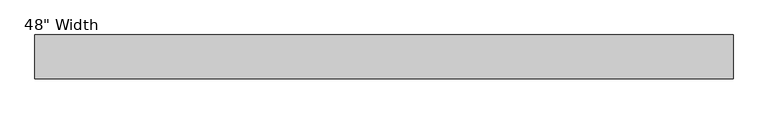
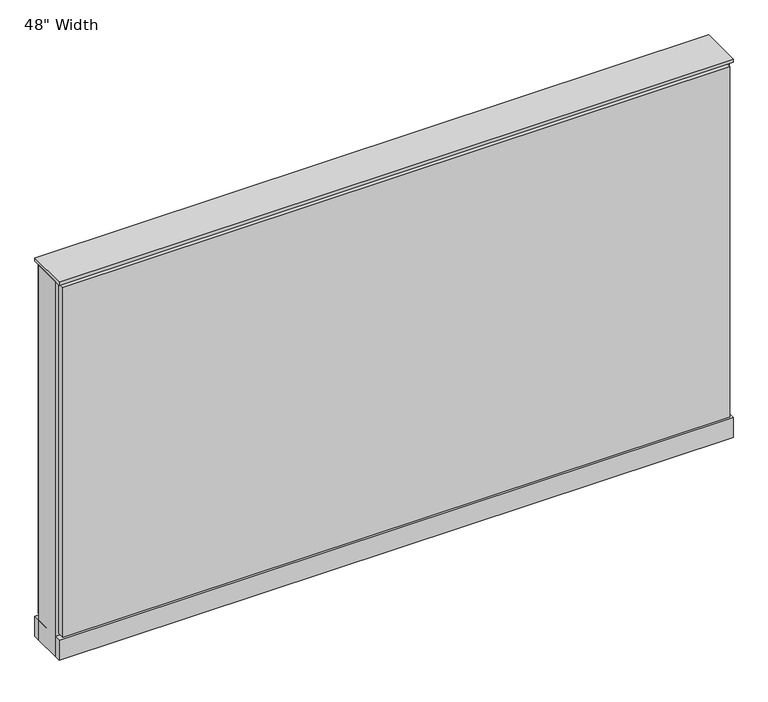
"""IFC4 building model written with IfcOpenShell, lengths in millimetres: furniture geometry."""

from ifc_helpers import new_model, si_unit, point, frame, frame_2d, origin, origin_with_axes, place, context, project, spatial, polyline, circle_curve, trimmed, segment, composite_curve, outline, extrude, source, transform, mapped, element, save


def furniture_39dd54f5(model_context):
    return source(origin(), model_context, "Body", "SweptSolid", [
        extrude(outline(composite_curve([segment(trimmed(circle_curve(frame_2d((535.8402902, 0.0)), 12.7), [point((523.1402902, 0.0))], [point((548.5402902, 0.0))], False, "CARTESIAN"), True, "CONTINUOUS"), segment(trimmed(circle_curve(frame_2d((535.8402902, 0.0)), 12.7), [point((548.5402902, 0.0))], [point((523.1402902, 0.0))], False, "CARTESIAN"), True, "CONTINUOUS")], self_intersect=False)), origin_with_axes(), (0.0, 0.0, 1.0), 12.7),
        extrude(outline(composite_curve([segment(trimmed(circle_curve(frame_2d((-530.9597098, 0.0)), 12.7), [point((-543.6597098, 0.0))], [point((-518.2597098, 0.0))], False, "CARTESIAN"), True, "CONTINUOUS"), segment(trimmed(circle_curve(frame_2d((-530.9597098, 0.0)), 12.7), [point((-518.2597098, 0.0))], [point((-543.6597098, 0.0))], False, "CARTESIAN"), True, "CONTINUOUS")], self_intersect=False)), origin_with_axes(), (0.0, 0.0, 1.0), 12.7),
        extrude(outline(polyline([(605.6902902, 38.1), (605.6902902, 25.4), (-600.8097098, 25.4), (-600.8097098, 38.1), (605.6902902, 38.1)])), frame((0.0, 0.0, 53.975), z_axis=(0.0, 0.0, 1.0), x_axis=(1.0, 0.0, 0.0)), (0.0, 0.0, 1.0), 669.925),
        extrude(outline(polyline([(605.6902902, -38.1), (-600.8097098, -38.1), (-600.8097098, -25.4), (605.6902902, -25.4), (605.6902902, -38.1)])), frame((0.0, 0.0, 53.975), z_axis=(0.0, 0.0, 1.0), x_axis=(1.0, 0.0, 0.0)), (0.0, 0.0, 1.0), 669.925),
        extrude(outline(polyline([(612.0402902, 25.4), (612.0402902, -25.4), (-607.1597098, -25.4), (-607.1597098, 25.4), (612.0402902, 25.4)])), frame((0.0, 0.0, 12.7), z_axis=(0.0, 0.0, 1.0), x_axis=(1.0, 0.0, 0.0)), (0.0, 0.0, 1.0), 717.55),
        extrude(outline(polyline([(-607.1597098, -38.1), (-607.1597098, 38.1), (612.0402902, 38.1), (612.0402902, -38.1), (-607.1597098, -38.1)])), frame((0.0, 0.0, 12.7), z_axis=(0.0, 0.0, 1.0), x_axis=(1.0, 0.0, 0.0)), (0.0, 0.0, 1.0), 38.1),
        extrude(outline(polyline([(-607.1597098, -38.1), (-607.1597098, 38.1), (612.0402902, 38.1), (612.0402902, -38.1), (-607.1597098, -38.1)])), frame((0.0, 0.0, 730.25), z_axis=(0.0, 0.0, 1.0), x_axis=(1.0, 0.0, 0.0)), (0.0, 0.0, 1.0), 6.35),
    ])


if __name__ == "__main__":
    model = new_model("IFC4")
    model_context = context("Model", 3, world=origin())
    ifc_project = project(units=[si_unit("LENGTHUNIT", "METRE", prefix="MILLI")], contexts=[model_context])
    site = spatial("IfcSite", under=ifc_project)
    building = spatial("IfcBuilding", under=site)
    placement = place(None, origin())
    furniture_shape = furniture_39dd54f5(model_context)
    element("IfcFurniture", 1, ObjectType="Haworth_Compose-Panel-Benching : 48\" Width", at=placement, inside=building, context=model_context, shape_type="MappedRepresentation", body=[
        mapped(furniture_shape, transform((0.0, 0.0, 0.0), x_axis=(1.0, 0.0, 0.0), y_axis=(0.0, 1.0, 0.0), z_axis=(0.0, 0.0, 1.0))),
    ])
    save(model, "model.ifc")
